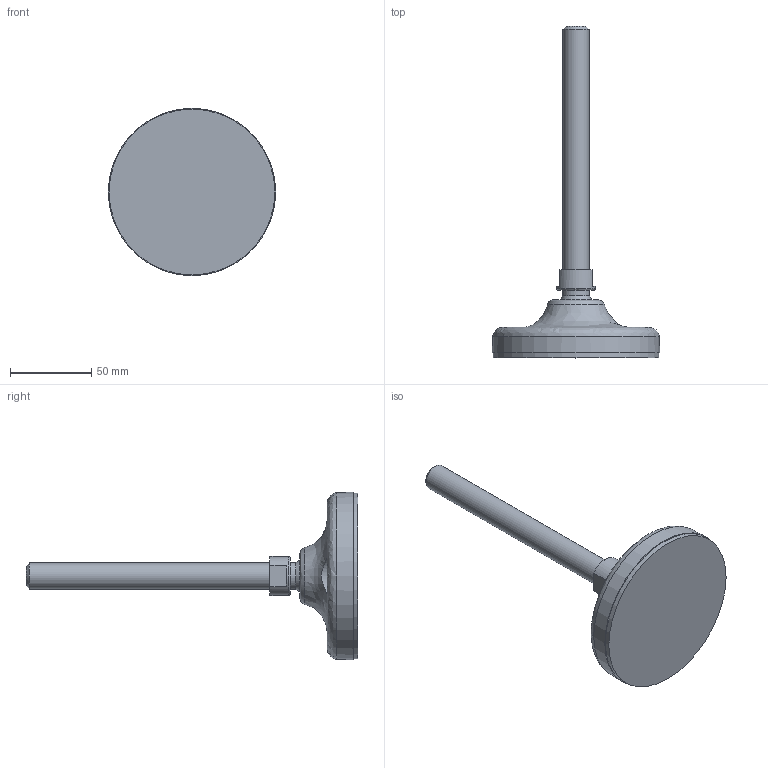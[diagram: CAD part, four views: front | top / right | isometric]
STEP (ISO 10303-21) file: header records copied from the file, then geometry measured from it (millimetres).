
FILE_DESCRIPTION(('STEP AP203'),'2;1');
FILE_NAME('10331.stp','2014-11-04T08:27:36',(''),(''),'2008.1.107','THINKDESIGN','');
FILE_SCHEMA(('CONFIG_CONTROL_DESIGN'));
Length unit declared in the file: millimetre
Bounding box: 103.02 x 204.13 x 103.02 mm (x, y, z)
Volume: 213627.4 mm3; surface area: 49166.3 mm2
Topology: 4 solids, 4 shells, 30 faces, 72 edges, 51 vertices
Faces by surface type: plane 17, bspline 7, cylinder 6
Full cylindrical faces by diameter (mm): 16 x1, 16.642 x1, 24 x1, 102 x1
Entity records: 1522 total; most frequent: CARTESIAN_POINT 709, DIRECTION 162, ORIENTED_EDGE 144, AXIS2_PLACEMENT_3D 74, EDGE_CURVE 72, VERTEX_POINT 51, CIRCLE 51, EDGE_LOOP 31
